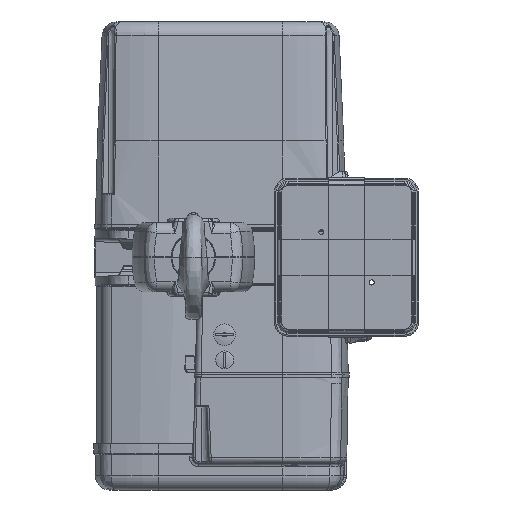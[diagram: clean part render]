
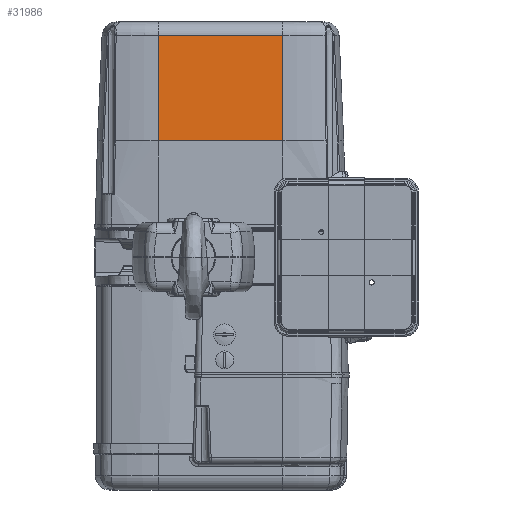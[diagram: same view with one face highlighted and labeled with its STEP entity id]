
A CAD part, front view. The second image highlights one B-rep face of the part: STEP entity #31986.
In plain terms, the highlighted planar face has unit normal (0, -0.999, 0.044).
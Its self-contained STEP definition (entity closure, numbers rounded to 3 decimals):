
#2247=PLANE('',#34275);
#2986=FACE_OUTER_BOUND('',#4904,.T.);
#4904=EDGE_LOOP('',(#21373,#21374,#21375,#21376));
#6872=LINE('',#53377,#8818);
#6892=LINE('',#54296,#8838);
#6893=LINE('',#54322,#8839);
#6894=LINE('',#54323,#8840);
#8818=VECTOR('',#38566,10.);
#8838=VECTOR('',#38774,10.);
#8839=VECTOR('',#38781,10.);
#8840=VECTOR('',#38782,10.);
#12647=VERTEX_POINT('',#53340);
#12650=VERTEX_POINT('',#53375);
#12713=VERTEX_POINT('',#54294);
#12715=VERTEX_POINT('',#54321);
#15814=EDGE_CURVE('',#12650,#12647,#6872,.T.);
#15923=EDGE_CURVE('',#12713,#12647,#6892,.T.);
#15926=EDGE_CURVE('',#12715,#12713,#6893,.T.);
#15927=EDGE_CURVE('',#12715,#12650,#6894,.T.);
#21373=ORIENTED_EDGE('',*,*,#15814,.T.);
#21374=ORIENTED_EDGE('',*,*,#15923,.F.);
#21375=ORIENTED_EDGE('',*,*,#15926,.F.);
#21376=ORIENTED_EDGE('',*,*,#15927,.T.);
#31986=ADVANCED_FACE('',(#2986),#2247,.F.);
#34275=AXIS2_PLACEMENT_3D('',#54320,#38779,#38780);
#38566=DIRECTION('',(-1.,0.,0.));
#38774=DIRECTION('',(0.,0.044,0.999));
#38779=DIRECTION('center_axis',(0.,0.999,
-0.044));
#38780=DIRECTION('ref_axis',(0.,0.044,0.999));
#38781=DIRECTION('',(-1.,0.,0.));
#38782=DIRECTION('',(0.,0.044,0.999));
#53340=CARTESIAN_POINT('',(-53.7,-361.039,307.372));
#53375=CARTESIAN_POINT('',(119.3,-361.039,307.372));
#53377=CARTESIAN_POINT('',(73.667,-361.039,307.372));
#54294=CARTESIAN_POINT('',(-53.7,-367.404,161.587));
#54296=CARTESIAN_POINT('',(-53.7,-367.408,161.5));
#54320=CARTESIAN_POINT('Origin',(32.8,-367.408,161.5));
#54321=CARTESIAN_POINT('',(119.3,-367.404,161.587));
#54322=CARTESIAN_POINT('',(32.8,-367.404,161.587));
#54323=CARTESIAN_POINT('',(119.3,-367.408,161.5));
